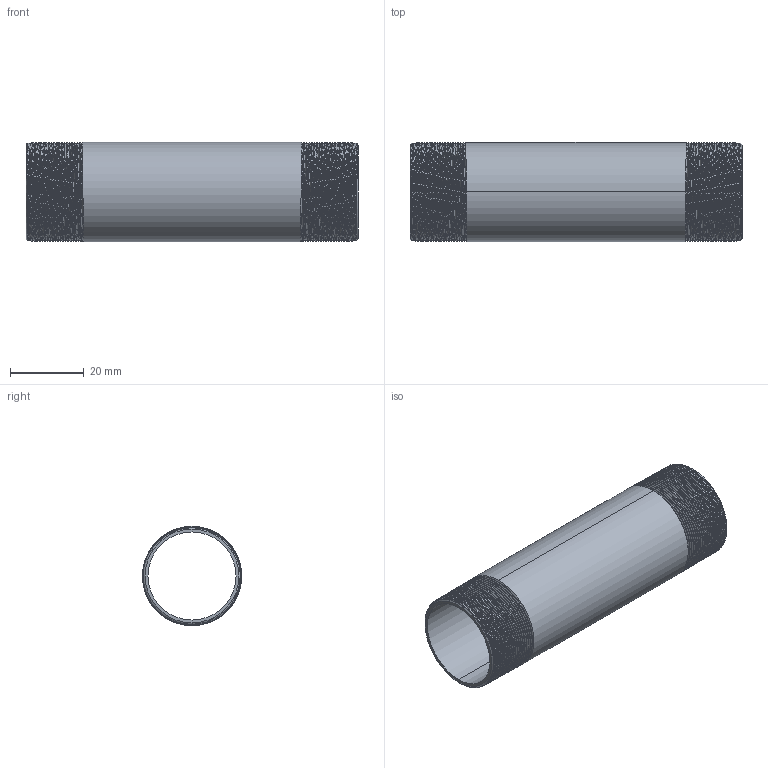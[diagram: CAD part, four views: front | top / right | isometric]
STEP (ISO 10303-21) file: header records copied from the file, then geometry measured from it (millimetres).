
FILE_DESCRIPTION (( 'STEP AP203' ), '1' );
FILE_NAME ('3D_R210_3-4x90_17185756.STEP', '2024-08-16T11:28:33', ( '' ), ( '' ), 'SwSTEP 2.0', 'SolidWorks 2024', '' );
FILE_SCHEMA (( 'CONFIG_CONTROL_DESIGN' ));
Length unit declared in the file: millimetre
Products named in the file (1): 3D_R210_3-4x90_17185756
Bounding box: 90 x 26.88 x 26.9 mm (x, y, z)
Volume: 10216.7 mm3; surface area: 15683.4 mm2
Topology: 1 solids, 1 shells, 106 faces, 304 edges, 200 vertices
Faces by surface type: cone 92, bspline 6, cylinder 4, plane 4
Entity records: 16481 total; most frequent: CARTESIAN_POINT 14027, ORIENTED_EDGE 608, DIRECTION 328, EDGE_CURVE 304, VERTEX_POINT 200, B_SPLINE_CURVE_WITH_KNOTS 182, AXIS2_PLACEMENT_3D 113, EDGE_LOOP 108
